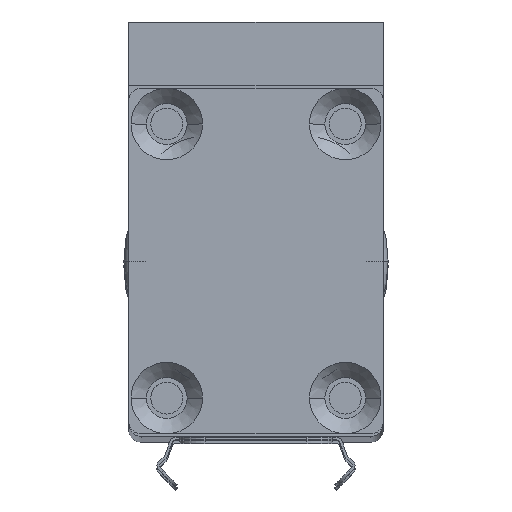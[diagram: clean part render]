
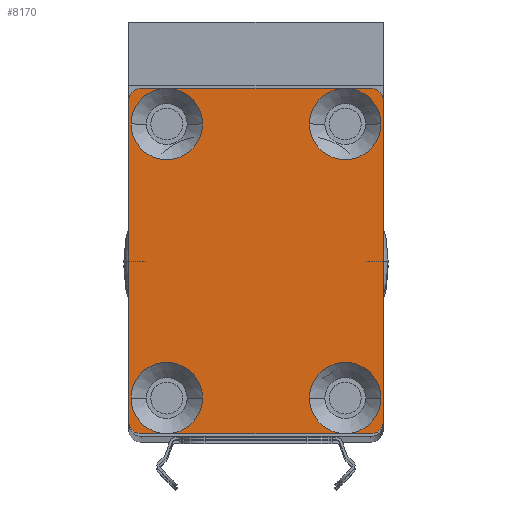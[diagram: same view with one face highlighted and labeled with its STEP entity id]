
A CAD part, top view. The second image highlights one B-rep face of the part: STEP entity #8170.
In plain terms, the highlighted planar face has unit normal (0, 0, 1).
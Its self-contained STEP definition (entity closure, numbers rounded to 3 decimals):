
#7730=CARTESIAN_POINT('',(-7.,-12.,264.5));
#7731=DIRECTION('',(0.,0.,-1.));
#7732=DIRECTION('',(-1.,0.,0.));
#7733=AXIS2_PLACEMENT_3D('',#7730,#7731,#7732);
#7735=CARTESIAN_POINT('',(-7.,-12.,264.5));
#7736=DIRECTION('',(0.,0.,-1.));
#7737=DIRECTION('',(0.,-1.,0.));
#7738=AXIS2_PLACEMENT_3D('',#7735,#7736,#7737);
#7740=DIRECTION('',(1.,0.,0.));
#7741=VECTOR('',#7740,2.);
#7742=CARTESIAN_POINT('',(-9.,-14.8,264.5));
#7743=LINE('',#7742,#7741);
#7744=CARTESIAN_POINT('',(-9.,-13.8,264.5));
#7745=DIRECTION('',(0.,0.,1.));
#7746=DIRECTION('',(-1.,0.,0.));
#7747=AXIS2_PLACEMENT_3D('',#7744,#7745,#7746);
#7749=DIRECTION('',(0.,-1.,0.));
#7750=VECTOR('',#7749,25.1);
#7751=CARTESIAN_POINT('',(-10.,11.3,264.5));
#7752=LINE('',#7751,#7750);
#7753=CARTESIAN_POINT('',(-9.,11.3,264.5));
#7754=DIRECTION('',(0.,0.,1.));
#7755=DIRECTION('',(0.,1.,0.));
#7756=AXIS2_PLACEMENT_3D('',#7753,#7754,#7755);
#7758=DIRECTION('',(1.,0.,0.));
#7759=VECTOR('',#7758,2.);
#7760=CARTESIAN_POINT('',(-9.,12.3,264.5));
#7761=LINE('',#7760,#7759);
#7762=CARTESIAN_POINT('',(-7.,9.5,264.5));
#7763=DIRECTION('',(0.,0.,-1.));
#7764=DIRECTION('',(-1.,0.,0.));
#7765=AXIS2_PLACEMENT_3D('',#7762,#7763,#7764);
#7767=CARTESIAN_POINT('',(-7.,9.5,264.5));
#7768=DIRECTION('',(0.,0.,-1.));
#7769=DIRECTION('',(1.,0.,0.));
#7770=AXIS2_PLACEMENT_3D('',#7767,#7768,#7769);
#7772=CARTESIAN_POINT('',(-7.,9.5,264.5));
#7773=DIRECTION('',(0.,0.,-1.));
#7774=DIRECTION('',(0.,1.,0.));
#7775=AXIS2_PLACEMENT_3D('',#7772,#7773,#7774);
#7777=DIRECTION('',(1.,0.,0.));
#7778=VECTOR('',#7777,14.);
#7779=CARTESIAN_POINT('',(-7.,12.3,264.5));
#7780=LINE('',#7779,#7778);
#7781=CARTESIAN_POINT('',(7.,9.5,264.5));
#7782=DIRECTION('',(0.,0.,-1.));
#7783=DIRECTION('',(-1.,0.,0.));
#7784=AXIS2_PLACEMENT_3D('',#7781,#7782,#7783);
#7786=CARTESIAN_POINT('',(7.,9.5,264.5));
#7787=DIRECTION('',(0.,0.,-1.));
#7788=DIRECTION('',(1.,0.,0.));
#7789=AXIS2_PLACEMENT_3D('',#7786,#7787,#7788);
#7791=CARTESIAN_POINT('',(7.,9.5,264.5));
#7792=DIRECTION('',(0.,0.,-1.));
#7793=DIRECTION('',(0.,1.,0.));
#7794=AXIS2_PLACEMENT_3D('',#7791,#7792,#7793);
#7796=DIRECTION('',(1.,0.,0.));
#7797=VECTOR('',#7796,2.);
#7798=CARTESIAN_POINT('',(7.,12.3,264.5));
#7799=LINE('',#7798,#7797);
#7800=CARTESIAN_POINT('',(9.,11.3,264.5));
#7801=DIRECTION('',(0.,0.,1.));
#7802=DIRECTION('',(1.,0.,0.));
#7803=AXIS2_PLACEMENT_3D('',#7800,#7801,#7802);
#7805=DIRECTION('',(0.,1.,0.));
#7806=VECTOR('',#7805,25.1);
#7807=CARTESIAN_POINT('',(10.,-13.8,264.5));
#7808=LINE('',#7807,#7806);
#7809=CARTESIAN_POINT('',(9.,-13.8,264.5));
#7810=DIRECTION('',(0.,0.,1.));
#7811=DIRECTION('',(0.,-1.,0.));
#7812=AXIS2_PLACEMENT_3D('',#7809,#7810,#7811);
#7814=DIRECTION('',(1.,0.,0.));
#7815=VECTOR('',#7814,2.);
#7816=CARTESIAN_POINT('',(7.,-14.8,264.5));
#7817=LINE('',#7816,#7815);
#7818=CARTESIAN_POINT('',(7.,-12.,264.5));
#7819=DIRECTION('',(0.,0.,-1.));
#7820=DIRECTION('',(1.,0.,0.));
#7821=AXIS2_PLACEMENT_3D('',#7818,#7819,#7820);
#7823=CARTESIAN_POINT('',(7.,-12.,264.5));
#7824=DIRECTION('',(0.,0.,-1.));
#7825=DIRECTION('',(-1.,0.,0.));
#7826=AXIS2_PLACEMENT_3D('',#7823,#7824,#7825);
#7828=CARTESIAN_POINT('',(7.,-12.,264.5));
#7829=DIRECTION('',(0.,0.,-1.));
#7830=DIRECTION('',(0.,-1.,0.));
#7831=AXIS2_PLACEMENT_3D('',#7828,#7829,#7830);
#7833=DIRECTION('',(1.,0.,0.));
#7834=VECTOR('',#7833,14.);
#7835=CARTESIAN_POINT('',(-7.,-14.8,264.5));
#7836=LINE('',#7835,#7834);
#7837=CARTESIAN_POINT('',(-7.,-12.,264.5));
#7838=DIRECTION('',(0.,0.,-1.));
#7839=DIRECTION('',(1.,0.,0.));
#7840=AXIS2_PLACEMENT_3D('',#7837,#7838,#7839);
#7956=CARTESIAN_POINT('',(-9.,12.3,264.5));
#7957=VERTEX_POINT('',#7956);
#7958=CARTESIAN_POINT('',(-10.,11.3,264.5));
#7959=VERTEX_POINT('',#7958);
#7964=CARTESIAN_POINT('',(10.,11.3,264.5));
#7965=VERTEX_POINT('',#7964);
#7966=CARTESIAN_POINT('',(9.,12.3,264.5));
#7967=VERTEX_POINT('',#7966);
#7972=CARTESIAN_POINT('',(9.,-14.8,264.5));
#7973=VERTEX_POINT('',#7972);
#7974=CARTESIAN_POINT('',(10.,-13.8,264.5));
#7975=VERTEX_POINT('',#7974);
#7980=CARTESIAN_POINT('',(-10.,-13.8,264.5));
#7981=VERTEX_POINT('',#7980);
#7982=CARTESIAN_POINT('',(-9.,-14.8,264.5));
#7983=VERTEX_POINT('',#7982);
#7988=CARTESIAN_POINT('',(-9.8,-12.,264.5));
#7989=CARTESIAN_POINT('',(-4.2,-12.,264.5));
#7990=VERTEX_POINT('',#7988);
#7991=VERTEX_POINT('',#7989);
#7992=CARTESIAN_POINT('',(-7.,-14.8,264.5));
#7993=VERTEX_POINT('',#7992);
#7998=CARTESIAN_POINT('',(-4.2,9.5,264.5));
#7999=CARTESIAN_POINT('',(-9.8,9.5,264.5));
#8000=VERTEX_POINT('',#7998);
#8001=VERTEX_POINT('',#7999);
#8002=CARTESIAN_POINT('',(-7.,12.3,264.5));
#8003=VERTEX_POINT('',#8002);
#8008=CARTESIAN_POINT('',(4.2,9.5,264.5));
#8009=CARTESIAN_POINT('',(7.,12.3,264.5));
#8010=VERTEX_POINT('',#8008);
#8011=VERTEX_POINT('',#8009);
#8012=CARTESIAN_POINT('',(9.8,9.5,264.5));
#8013=VERTEX_POINT('',#8012);
#8018=CARTESIAN_POINT('',(9.8,-12.,264.5));
#8019=CARTESIAN_POINT('',(7.,-14.8,264.5));
#8020=VERTEX_POINT('',#8018);
#8021=VERTEX_POINT('',#8019);
#8022=CARTESIAN_POINT('',(4.2,-12.,264.5));
#8023=VERTEX_POINT('',#8022);
#8118=CARTESIAN_POINT('',(0.,-1.25,264.5));
#8119=DIRECTION('',(0.,0.,1.));
#8120=DIRECTION('',(1.,0.,0.));
#8121=AXIS2_PLACEMENT_3D('',#8118,#8119,#8120);
#8122=PLANE('',#8121);
#8123=ORIENTED_EDGE('',*,*,#8095,.F.);
#8124=ORIENTED_EDGE('',*,*,#8112,.F.);
#8126=ORIENTED_EDGE('',*,*,#8125,.F.);
#8128=ORIENTED_EDGE('',*,*,#8127,.F.);
#8130=ORIENTED_EDGE('',*,*,#8129,.F.);
#8132=ORIENTED_EDGE('',*,*,#8131,.F.);
#8134=ORIENTED_EDGE('',*,*,#8133,.T.);
#8136=ORIENTED_EDGE('',*,*,#8135,.F.);
#8138=ORIENTED_EDGE('',*,*,#8137,.F.);
#8140=ORIENTED_EDGE('',*,*,#8139,.F.);
#8142=ORIENTED_EDGE('',*,*,#8141,.T.);
#8144=ORIENTED_EDGE('',*,*,#8143,.F.);
#8146=ORIENTED_EDGE('',*,*,#8145,.F.);
#8148=ORIENTED_EDGE('',*,*,#8147,.F.);
#8150=ORIENTED_EDGE('',*,*,#8149,.T.);
#8152=ORIENTED_EDGE('',*,*,#8151,.F.);
#8154=ORIENTED_EDGE('',*,*,#8153,.F.);
#8156=ORIENTED_EDGE('',*,*,#8155,.F.);
#8158=ORIENTED_EDGE('',*,*,#8157,.F.);
#8160=ORIENTED_EDGE('',*,*,#8159,.F.);
#8162=ORIENTED_EDGE('',*,*,#8161,.F.);
#8164=ORIENTED_EDGE('',*,*,#8163,.F.);
#8166=ORIENTED_EDGE('',*,*,#8165,.F.);
#8167=ORIENTED_EDGE('',*,*,#8110,.F.);
#8168=EDGE_LOOP('',(#8123,#8124,#8126,#8128,#8130,#8132,#8134,#8136,#8138,#8140,
#8142,#8144,#8146,#8148,#8150,#8152,#8154,#8156,#8158,#8160,#8162,#8164,#8166,
#8167));
#8169=FACE_OUTER_BOUND('',#8168,.F.);
#8170=ADVANCED_FACE('',(#8169),#8122,.T.);
#7734=CIRCLE('',#7733,2.8);
#7739=CIRCLE('',#7738,2.8);
#7748=CIRCLE('',#7747,1.);
#7757=CIRCLE('',#7756,1.);
#7766=CIRCLE('',#7765,2.8);
#7771=CIRCLE('',#7770,2.8);
#7776=CIRCLE('',#7775,2.8);
#7785=CIRCLE('',#7784,2.8);
#7790=CIRCLE('',#7789,2.8);
#7795=CIRCLE('',#7794,2.8);
#7804=CIRCLE('',#7803,1.);
#7813=CIRCLE('',#7812,1.);
#7822=CIRCLE('',#7821,2.8);
#7827=CIRCLE('',#7826,2.8);
#7832=CIRCLE('',#7831,2.8);
#7841=CIRCLE('',#7840,2.8);
#8095=EDGE_CURVE('',#7990,#7991,#7734,.T.);
#8110=EDGE_CURVE('',#7991,#7993,#7841,.T.);
#8112=EDGE_CURVE('',#7993,#7990,#7739,.T.);
#8125=EDGE_CURVE('',#7983,#7993,#7743,.T.);
#8127=EDGE_CURVE('',#7981,#7983,#7748,.T.);
#8129=EDGE_CURVE('',#7959,#7981,#7752,.T.);
#8131=EDGE_CURVE('',#7957,#7959,#7757,.T.);
#8133=EDGE_CURVE('',#7957,#8003,#7761,.T.);
#8135=EDGE_CURVE('',#8001,#8003,#7766,.T.);
#8137=EDGE_CURVE('',#8000,#8001,#7771,.T.);
#8139=EDGE_CURVE('',#8003,#8000,#7776,.T.);
#8141=EDGE_CURVE('',#8003,#8011,#7780,.T.);
#8143=EDGE_CURVE('',#8010,#8011,#7785,.T.);
#8145=EDGE_CURVE('',#8013,#8010,#7790,.T.);
#8147=EDGE_CURVE('',#8011,#8013,#7795,.T.);
#8149=EDGE_CURVE('',#8011,#7967,#7799,.T.);
#8151=EDGE_CURVE('',#7965,#7967,#7804,.T.);
#8153=EDGE_CURVE('',#7975,#7965,#7808,.T.);
#8155=EDGE_CURVE('',#7973,#7975,#7813,.T.);
#8157=EDGE_CURVE('',#8021,#7973,#7817,.T.);
#8159=EDGE_CURVE('',#8020,#8021,#7822,.T.);
#8161=EDGE_CURVE('',#8023,#8020,#7827,.T.);
#8163=EDGE_CURVE('',#8021,#8023,#7832,.T.);
#8165=EDGE_CURVE('',#7993,#8021,#7836,.T.);
